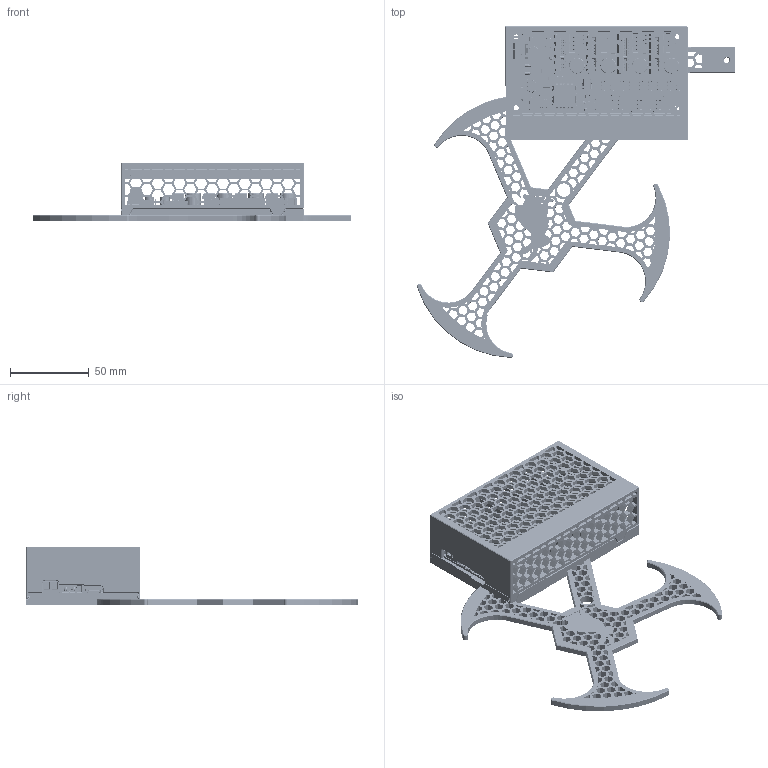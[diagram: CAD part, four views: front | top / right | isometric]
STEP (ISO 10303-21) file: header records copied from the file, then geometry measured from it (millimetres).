
FILE_DESCRIPTION (( 'STEP AP203' ), '1' );
FILE_NAME ('mellow-MMB Support Arm Endcap-final.STEP', '2024-06-24T05:01:26', ( '' ), ( '' ), 'SwSTEP 2.0', 'SolidWorks 2023', '' );
FILE_SCHEMA (( 'CONFIG_CONTROL_DESIGN' ));
Length unit declared in the file: millimetre
Products named in the file (167): FPC1; SOD-123_DiodesInc; SW1; LOGO__-11; HDR2.0-LI-2P; SOT23-8; COMPOUND_2; END5; FLY_MMU(2); mellow-MMB Support Arm EndCap-ShortTail Version; U1(2); HDR2.54-1P; 6272313536; NR2520-15; XH2.54-4P; LOGO__0.15-24; MC56; J3; IC4; RST; mellow-MMB Support Arm Endcap-final; END9; END10; XH2.54-4P-12; CN4; SW-SMD_4P_PTS810SJM250SMTRLFS; LOGO__0.15; SOT23-8-23; 6470526432; aTMC5160TA.step; LQFP100-14x14; MD19; PH2.0-LS-2P-6; BOOT; Servo2; Extruded-19; IC3; D10; SOT23-6; C36(2)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
Assembly tree (372 placements, depth 8):
  mellow-MMB Support Arm Endcap-final
    FLY_MMU-lite
      FLY_MMU(2)
        Board(2)
          Open CASCADE STEP translator 7.5 4.1.1
        j4
          HDR2.0-LI-2P
            HDR2.0-LI-1P  x2
            LOGO__0.1
        CAN-OUT
          PH2.0-LS-2P
            PH2.0-LS-______  x2
            PH2.0-LS-2P-6
            LOGO__0.4
        RST
          button
            SW1
              SW-SMD_4P_PTS810SJM250SMTRLFS
                COMPOUND_2
        BOOT
          button
            SW1
              SW-SMD_4P_PTS810SJM250SMTRLFS
                COMPOUND_2
        C2(2)
          CM D(6.3X7.7)
            LOGO__
            CM D(6.3X7.7)-7
        C36(2)
          CM D(6.3X7.7)
            LOGO__
            CM D(6.3X7.7)-7
        U1(2)
          TSSOP16
            TSSOP16 ____
            ______0.9  x16
            LOGO__0.25
        SW1-1
          SW-SMD_6P-P2.50_L3.5-W7.2 (1)
        FPC1
          CONN-SMD_20P-P0.50_L3.0-W15.6
        48V
          a
            aTMC5160TA.step
              CJ2.step
                kf128.step
        J1(2)
          HDR2.54-1P  x3
            HDR2.54-1P-9
            LOGO__-10
        J2(2)
          HDR2.54-1P  x3
            HDR2.54-1P-9
            LOGO__-10
        5V
          JST-B2B-XH-A_RGB0
        3.3V
          JST-B2B-XH-A_RGB0
        END10
          XH2.54-3
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Bounding box: 201.72 x 210.41 x 37.1 mm (x, y, z)
Volume: 174651 mm3; surface area: 188982.6 mm2
Topology: 1092 solids, 1122 shells, 33266 faces, 85693 edges, 53469 vertices
Faces by surface type: plane 19993, cylinder 7584, bspline 4416, torus 696, sphere 440, cone 137
Entity records: 533406 total; most frequent: CARTESIAN_POINT 142581, ORIENTED_EDGE 80312, DIRECTION 67864, EDGE_CURVE 40168, LINE 30900, VECTOR 30900, VERTEX_POINT 26146, AXIS2_PLACEMENT_3D 18482
